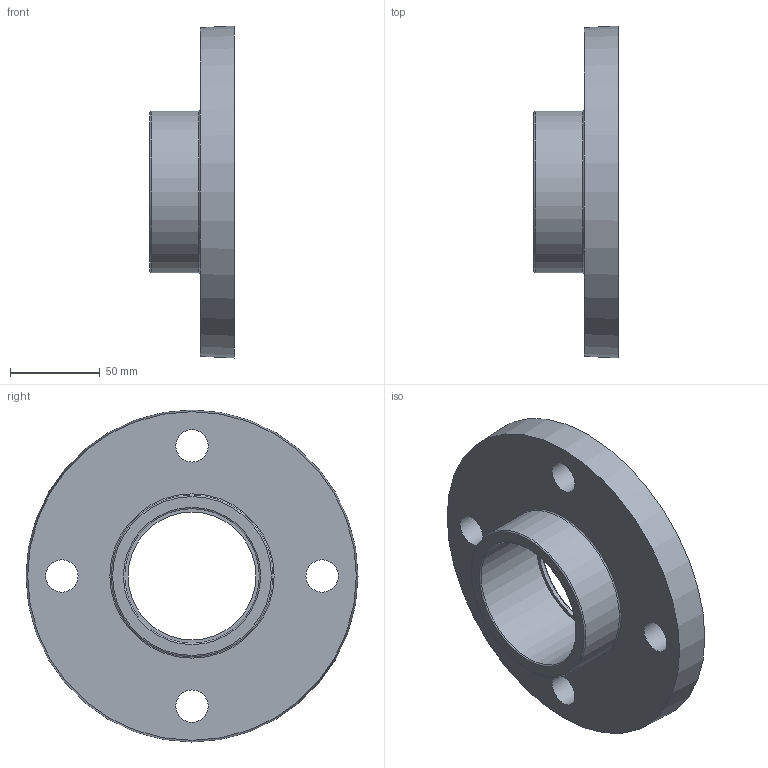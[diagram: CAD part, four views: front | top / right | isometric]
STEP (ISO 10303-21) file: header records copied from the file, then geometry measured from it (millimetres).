
FILE_DESCRIPTION(/* description */ ('PLASSON FIXED FLANGE-CEM PVC 75'),/* implementation_level */ '2;1');
FILE_NAME(/* name */ 'C:\Dropbox\KIMPROJECTS-Inventor\99-16-3568-Processing\PVC Catalog 2017\059200\059100075.ipt.stp',/* time_stamp */ '2017-12-07T16:07:19+02:00',/* author */ ('KIM'),/* organization */ (''),/* preprocessor_version */ 'ST-DEVELOPER v15.6',/* originating_system */ 'Autodesk Inventor 2015',/* authorisation */ '');
FILE_SCHEMA (('AUTOMOTIVE_DESIGN { 1 0 10303 214 3 1 1 }'));
Length unit declared in the file: millimetre
Products named in the file (1): 059100075
Bounding box: 47 x 185 x 185 mm (x, y, z)
Volume: 457764.8 mm3; surface area: 77692.5 mm2
Topology: 1 solids, 1 shells, 28 faces, 50 edges, 32 vertices
Faces by surface type: cylinder 13, plane 10, torus 4, cone 1
Full cylindrical faces by diameter (mm): 18 x4, 71.25 x1, 74.6 x1, 75 x1, 76.45 x1, 78.3 x1, 80.15 x1, 82 x1, 83.85 x1, 90 x1
Entity records: 648 total; most frequent: DIRECTION 122, CARTESIAN_POINT 93, EDGE_LOOP 64, ORIENTED_EDGE 64, AXIS2_PLACEMENT_3D 61, FACE_BOUND 36, CIRCLE 32, VERTEX_POINT 32
